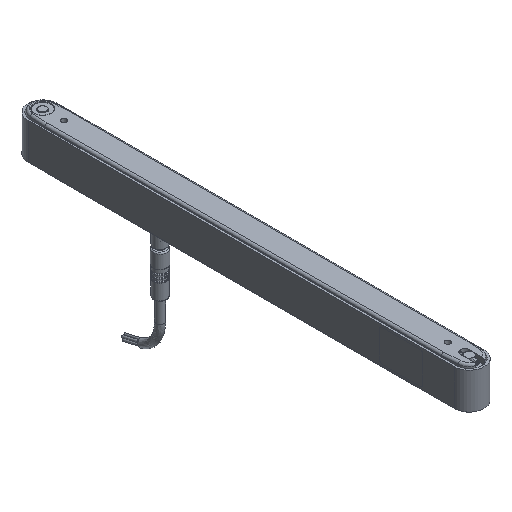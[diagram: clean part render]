
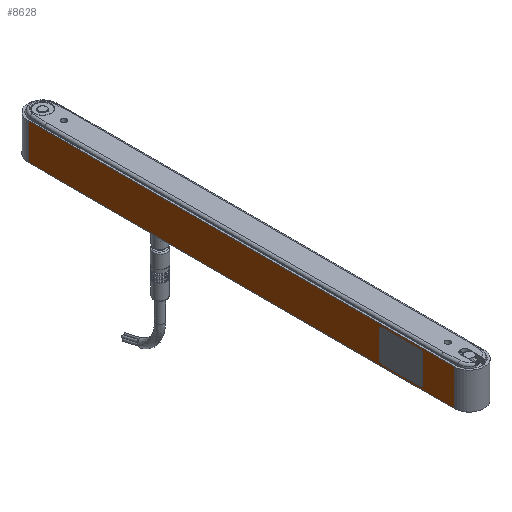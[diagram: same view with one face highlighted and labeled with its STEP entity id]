
A CAD part, isometric view. The second image highlights one B-rep face of the part: STEP entity #8628.
In plain terms, the highlighted planar face has unit normal (-1, 0, 0).
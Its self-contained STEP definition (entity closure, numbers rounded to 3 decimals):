
#357=FACE_BOUND('',#1347,.T.);
#464=PLANE('',#9261);
#840=FACE_OUTER_BOUND('',#1346,.T.);
#1346=EDGE_LOOP('',(#5861,#5862,#5863,#5864));
#1347=EDGE_LOOP('',(#5865,#5866,#5867,#5868,#5869,#5870,#5871,#5872));
#1855=LINE('',#12824,#2397);
#1859=LINE('',#12836,#2401);
#1863=LINE('',#12848,#2405);
#1867=LINE('',#12860,#2409);
#1877=LINE('',#12895,#2419);
#1880=LINE('',#12904,#2422);
#1883=LINE('',#12912,#2425);
#1884=LINE('',#12914,#2426);
#2397=VECTOR('',#10387,10.);
#2401=VECTOR('',#10399,10.);
#2405=VECTOR('',#10411,10.);
#2409=VECTOR('',#10423,10.);
#2419=VECTOR('',#10461,10.);
#2422=VECTOR('',#10470,10.);
#2425=VECTOR('',#10479,10.);
#2426=VECTOR('',#10482,10.);
#2975=CIRCLE('',#9231,1.5);
#2977=CIRCLE('',#9235,1.5);
#2979=CIRCLE('',#9239,1.5);
#2981=CIRCLE('',#9243,1.5);
#3488=VERTEX_POINT('',#12821);
#3489=VERTEX_POINT('',#12823);
#3491=VERTEX_POINT('',#12829);
#3493=VERTEX_POINT('',#12835);
#3495=VERTEX_POINT('',#12841);
#3497=VERTEX_POINT('',#12847);
#3499=VERTEX_POINT('',#12853);
#3501=VERTEX_POINT('',#12859);
#3510=VERTEX_POINT('',#12891);
#3512=VERTEX_POINT('',#12894);
#3514=VERTEX_POINT('',#12900);
#3517=VERTEX_POINT('',#12910);
#4376=EDGE_CURVE('',#3489,#3488,#1855,.T.);
#4379=EDGE_CURVE('',#3491,#3489,#2975,.T.);
#4382=EDGE_CURVE('',#3493,#3491,#1859,.T.);
#4385=EDGE_CURVE('',#3495,#3493,#2977,.T.);
#4388=EDGE_CURVE('',#3497,#3495,#1863,.T.);
#4391=EDGE_CURVE('',#3499,#3497,#2979,.T.);
#4394=EDGE_CURVE('',#3501,#3499,#1867,.T.);
#4397=EDGE_CURVE('',#3488,#3501,#2981,.T.);
#4411=EDGE_CURVE('',#3512,#3510,#1877,.T.);
#4416=EDGE_CURVE('',#3514,#3512,#1880,.T.);
#4420=EDGE_CURVE('',#3510,#3517,#1883,.T.);
#4421=EDGE_CURVE('',#3517,#3514,#1884,.T.);
#5861=ORIENTED_EDGE('',*,*,#4421,.T.);
#5862=ORIENTED_EDGE('',*,*,#4416,.T.);
#5863=ORIENTED_EDGE('',*,*,#4411,.T.);
#5864=ORIENTED_EDGE('',*,*,#4420,.T.);
#5865=ORIENTED_EDGE('',*,*,#4376,.T.);
#5866=ORIENTED_EDGE('',*,*,#4397,.T.);
#5867=ORIENTED_EDGE('',*,*,#4394,.T.);
#5868=ORIENTED_EDGE('',*,*,#4391,.T.);
#5869=ORIENTED_EDGE('',*,*,#4388,.T.);
#5870=ORIENTED_EDGE('',*,*,#4385,.T.);
#5871=ORIENTED_EDGE('',*,*,#4382,.T.);
#5872=ORIENTED_EDGE('',*,*,#4379,.T.);
#8628=ADVANCED_FACE('',(#840,#357),#464,.T.);
#9231=AXIS2_PLACEMENT_3D('',#12830,#10393,#10394);
#9235=AXIS2_PLACEMENT_3D('',#12842,#10405,#10406);
#9239=AXIS2_PLACEMENT_3D('',#12854,#10417,#10418);
#9243=AXIS2_PLACEMENT_3D('',#12864,#10429,#10430);
#9261=AXIS2_PLACEMENT_3D('',#12913,#10480,#10481);
#10387=DIRECTION('',(0.,1.,0.));
#10393=DIRECTION('center_axis',(1.,0.,0.));
#10394=DIRECTION('ref_axis',(0.,0.,
-1.));
#10399=DIRECTION('',(0.,0.,-1.));
#10405=DIRECTION('center_axis',(1.,0.,0.));
#10406=DIRECTION('ref_axis',(0.,-1.,0.));
#10411=DIRECTION('',(0.,-1.,0.));
#10417=DIRECTION('center_axis',(1.,0.,0.));
#10418=DIRECTION('ref_axis',(0.,0.,
1.));
#10423=DIRECTION('',(0.,0.,1.));
#10429=DIRECTION('center_axis',(1.,0.,0.));
#10430=DIRECTION('ref_axis',(0.,1.,0.));
#10461=DIRECTION('',(0.,-1.,0.));
#10470=DIRECTION('',(0.,0.,-1.));
#10479=DIRECTION('',(0.,0.,1.));
#10480=DIRECTION('center_axis',(-1.,0.,0.));
#10481=DIRECTION('ref_axis',(0.,0.,
1.));
#10482=DIRECTION('',(0.,1.,0.));
#12821=CARTESIAN_POINT('',(-6.9,33.7,-7.5));
#12823=CARTESIAN_POINT('',(-6.9,16.3,-7.5));
#12824=CARTESIAN_POINT('',(-6.9,16.85,-7.5));
#12829=CARTESIAN_POINT('',(-6.9,14.8,-6.));
#12830=CARTESIAN_POINT('Origin',(-6.9,16.3,-6.));
#12835=CARTESIAN_POINT('',(-6.9,14.8,6.));
#12836=CARTESIAN_POINT('',(-6.9,14.8,-3.));
#12841=CARTESIAN_POINT('',(-6.9,16.3,7.5));
#12842=CARTESIAN_POINT('Origin',(-6.9,16.3,6.));
#12847=CARTESIAN_POINT('',(-6.9,33.7,7.5));
#12848=CARTESIAN_POINT('',(-6.9,8.15,7.5));
#12853=CARTESIAN_POINT('',(-6.9,35.2,6.));
#12854=CARTESIAN_POINT('Origin',(-6.9,33.7,6.));
#12859=CARTESIAN_POINT('',(-6.9,35.2,-6.));
#12860=CARTESIAN_POINT('',(-6.9,35.2,3.));
#12864=CARTESIAN_POINT('Origin',(-6.9,33.7,-6.));
#12891=CARTESIAN_POINT('',(-6.9,0.,-8.5));
#12894=CARTESIAN_POINT('',(-6.9,200.,-8.5));
#12895=CARTESIAN_POINT('',(-6.9,200.,-8.5));
#12900=CARTESIAN_POINT('',(-6.9,200.,8.5));
#12904=CARTESIAN_POINT('',(-6.9,200.,0.));
#12910=CARTESIAN_POINT('',(-6.9,0.,8.5));
#12912=CARTESIAN_POINT('',(-6.9,0.,0.));
#12913=CARTESIAN_POINT('Origin',(-6.9,0.,
0.));
#12914=CARTESIAN_POINT('',(-6.9,200.,8.5));
